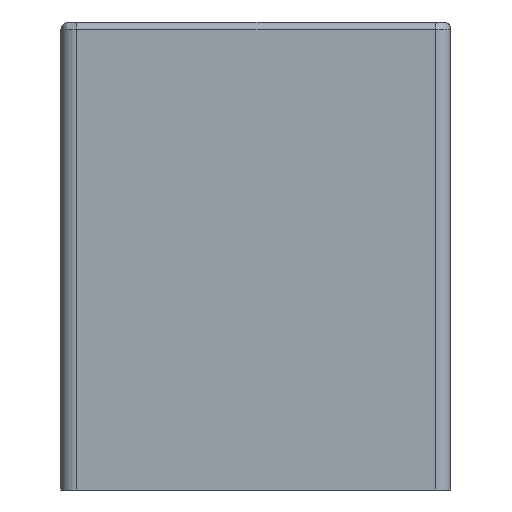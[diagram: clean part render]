
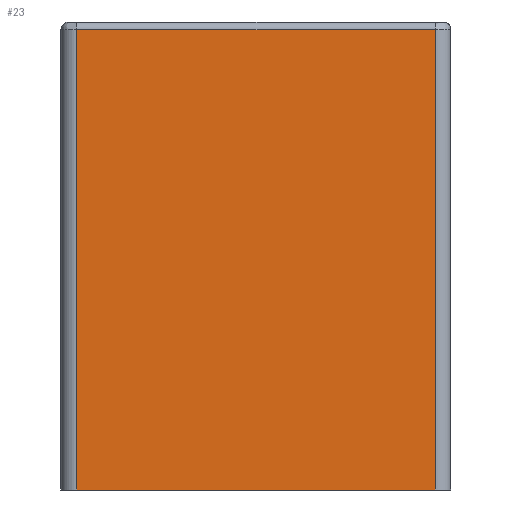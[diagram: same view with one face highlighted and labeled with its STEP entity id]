
A CAD part, left-side view. The second image highlights one B-rep face of the part: STEP entity #23.
In plain terms, the highlighted planar face has unit normal (-1, 0, 0).
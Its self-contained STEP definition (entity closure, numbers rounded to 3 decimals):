
#23=ADVANCED_FACE('',(#61),#523,.T.);
#61=FACE_OUTER_BOUND('',#99,.T.);
#99=EDGE_LOOP('',(#143,#144,#145,#146));
#143=ORIENTED_EDGE('',*,*,#307,.F.);
#144=ORIENTED_EDGE('',*,*,#310,.T.);
#145=ORIENTED_EDGE('',*,*,#311,.T.);
#146=ORIENTED_EDGE('',*,*,#312,.T.);
#307=EDGE_CURVE('',#472,#475,#398,.T.);
#310=EDGE_CURVE('',#472,#477,#400,.T.);
#311=EDGE_CURVE('',#477,#478,#401,.T.);
#312=EDGE_CURVE('',#478,#475,#402,.T.);
#398=B_SPLINE_CURVE_WITH_KNOTS('',1,(#903,#904),.UNSPECIFIED.,.F.,.F.,(2,
2),(0.,1.),.UNSPECIFIED.);
#400=B_SPLINE_CURVE_WITH_KNOTS('',1,(#910,#911),.UNSPECIFIED.,.F.,.F.,(2,
2),(0.,1.),.UNSPECIFIED.);
#401=B_SPLINE_CURVE_WITH_KNOTS('',1,(#912,#913),.UNSPECIFIED.,.F.,.F.,(2,
2),(-1.,0.),.UNSPECIFIED.);
#402=B_SPLINE_CURVE_WITH_KNOTS('',1,(#914,#915),.UNSPECIFIED.,.F.,.F.,(2,
2),(-1.,0.),.UNSPECIFIED.);
#472=VERTEX_POINT('',#850);
#475=VERTEX_POINT('',#853);
#477=VERTEX_POINT('',#855);
#478=VERTEX_POINT('',#856);
#523=PLANE('',#581);
#581=AXIS2_PLACEMENT_3D('',#667,#606,$);
#606=DIRECTION('',(-1.,0.,0.));
#667=CARTESIAN_POINT('',(-450.,-115.,0.));
#850=CARTESIAN_POINT('',(-450.,-115.,295.));
#853=CARTESIAN_POINT('',(-450.,-115.,0.));
#855=CARTESIAN_POINT('',(-450.,115.,295.));
#856=CARTESIAN_POINT('',(-450.,115.,0.));
#903=CARTESIAN_POINT('',(-450.,-115.,295.));
#904=CARTESIAN_POINT('',(-450.,-115.,0.));
#910=CARTESIAN_POINT('',(-450.,-115.,295.));
#911=CARTESIAN_POINT('',(-450.,115.,295.));
#912=CARTESIAN_POINT('',(-450.,115.,295.));
#913=CARTESIAN_POINT('',(-450.,115.,0.));
#914=CARTESIAN_POINT('',(-450.,115.,0.));
#915=CARTESIAN_POINT('',(-450.,-115.,0.));
